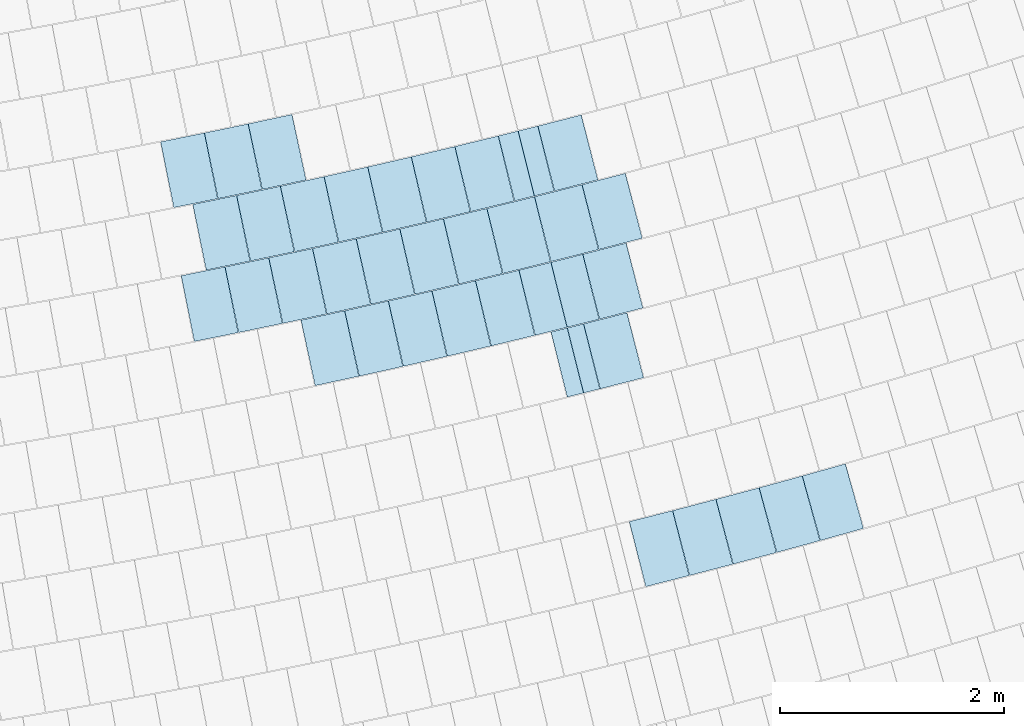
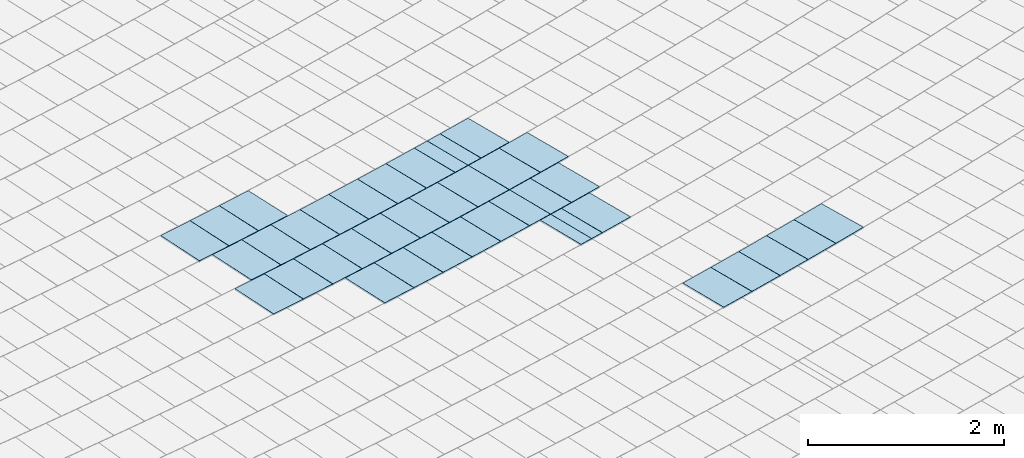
# One storey, part 51 of 438: 39 slabs.
"""IFC2X3 building model written with IfcOpenShell, lengths in millimetres."""

from ifc_helpers import new_model, entity, si_unit, converted_unit, derived_unit, direction, frame, origin, place, context, subcontext, project, spatial, polyline, outline, extrude, material, layer, layer_set, layer_usage, type_object, element, save


model = new_model("IFC2X3")

# Units and contexts
model_context = context("Model", 3, precision=0.01, world=origin(), true_north=direction((6.123031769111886e-17, 1.0)))
body_context = subcontext(model_context, "Body", "Model", "MODEL_VIEW")
ifc_project = project(units=[si_unit("LENGTHUNIT", "METRE", prefix="MILLI"), si_unit("AREAUNIT", "SQUARE_METRE"), si_unit("VOLUMEUNIT", "CUBIC_METRE"), converted_unit("PLANEANGLEUNIT", "DEGREE", entity("IfcRatioMeasure", 0.017453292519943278), si_unit("PLANEANGLEUNIT", "RADIAN"), dimensions=[0, 0, 0, 0, 0, 0, 0]), si_unit("MASSUNIT", "GRAM", prefix="KILO"), derived_unit("MASSDENSITYUNIT", [(si_unit("MASSUNIT", "GRAM", prefix="KILO"), 1), (si_unit("LENGTHUNIT", "METRE"), -3)]), derived_unit("MOMENTOFINERTIAUNIT", [(si_unit("LENGTHUNIT", "METRE"), 4)]), si_unit("TIMEUNIT", "SECOND"), si_unit("FREQUENCYUNIT", "HERTZ"), si_unit("THERMODYNAMICTEMPERATUREUNIT", "DEGREE_CELSIUS"), derived_unit("THERMALTRANSMITTANCEUNIT", [(si_unit("MASSUNIT", "GRAM", prefix="KILO"), 1), (si_unit("THERMODYNAMICTEMPERATUREUNIT", "KELVIN"), -1), (si_unit("TIMEUNIT", "SECOND"), -3)]), derived_unit("THERMALCONDUCTANCEUNIT", [(si_unit("MASSUNIT", "GRAM", prefix="KILO"), 1), (si_unit("LENGTHUNIT", "METRE"), 1), (si_unit("THERMODYNAMICTEMPERATUREUNIT", "KELVIN"), -1), (si_unit("TIMEUNIT", "SECOND"), -3)]), derived_unit("VOLUMETRICFLOWRATEUNIT", [(si_unit("LENGTHUNIT", "METRE"), 3), (si_unit("TIMEUNIT", "SECOND"), -1)]), derived_unit("MASSFLOWRATEUNIT", [(si_unit("MASSUNIT", "GRAM", prefix="KILO"), 1), (si_unit("TIMEUNIT", "SECOND"), -1)]), derived_unit("ROTATIONALFREQUENCYUNIT", [(si_unit("TIMEUNIT", "SECOND"), -1)]), si_unit("ELECTRICCURRENTUNIT", "AMPERE"), si_unit("ELECTRICVOLTAGEUNIT", "VOLT"), si_unit("POWERUNIT", "WATT"), converted_unit("FORCEUNIT", "KIP", entity("IfcRatioMeasure", 2.088543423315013e-05), si_unit("FORCEUNIT", "NEWTON"), dimensions=[1, 1, -2, 0, 0, 0, 0]), si_unit("ILLUMINANCEUNIT", "LUX"), si_unit("LUMINOUSFLUXUNIT", "LUMEN"), si_unit("LUMINOUSINTENSITYUNIT", "CANDELA"), derived_unit("USERDEFINED", [(si_unit("MASSUNIT", "GRAM", prefix="KILO"), -1), (si_unit("LENGTHUNIT", "METRE"), -2), (si_unit("TIMEUNIT", "SECOND"), 3), (si_unit("LUMINOUSFLUXUNIT", "LUMEN"), 1)]), derived_unit("USERDEFINED", [(si_unit("MASSUNIT", "GRAM", prefix="KILO"), 1), (si_unit("LENGTHUNIT", "METRE"), 3), (si_unit("TIMEUNIT", "SECOND"), -3), (si_unit("ELECTRICCURRENTUNIT", "AMPERE"), -2)]), derived_unit("USERDEFINED", [(si_unit("LENGTHUNIT", "METRE"), 2), (si_unit("TIMEUNIT", "SECOND"), -2)]), derived_unit("SOUNDPOWERUNIT", [(si_unit("MASSUNIT", "GRAM", prefix="KILO"), 1), (si_unit("LENGTHUNIT", "METRE"), 2), (si_unit("TIMEUNIT", "SECOND"), -3)]), derived_unit("SOUNDPRESSUREUNIT", [(si_unit("MASSUNIT", "GRAM", prefix="KILO"), 1), (si_unit("LENGTHUNIT", "METRE"), -1), (si_unit("TIMEUNIT", "SECOND"), -2)]), derived_unit("LINEARVELOCITYUNIT", [(si_unit("LENGTHUNIT", "METRE"), 1), (si_unit("TIMEUNIT", "SECOND"), -1)]), si_unit("PRESSUREUNIT", "PASCAL"), derived_unit("USERDEFINED", [(si_unit("LENGTHUNIT", "METRE"), -2), (si_unit("MASSUNIT", "GRAM", prefix="KILO"), 1), (si_unit("TIMEUNIT", "SECOND"), -2)]), derived_unit("LINEARFORCEUNIT", [(si_unit("MASSUNIT", "GRAM", prefix="KILO"), 1), (si_unit("LENGTHUNIT", "METRE"), 1), (si_unit("TIMEUNIT", "SECOND"), -2), (si_unit("LENGTHUNIT", "METRE"), -1)]), derived_unit("PLANARFORCEUNIT", [(si_unit("MASSUNIT", "GRAM", prefix="KILO"), 1), (si_unit("LENGTHUNIT", "METRE"), 1), (si_unit("TIMEUNIT", "SECOND"), -2), (si_unit("LENGTHUNIT", "METRE"), -2)]), derived_unit("SPECIFICHEATCAPACITYUNIT", [(si_unit("LENGTHUNIT", "METRE"), 2), (si_unit("TIMEUNIT", "SECOND"), -2), (si_unit("THERMODYNAMICTEMPERATUREUNIT", "KELVIN"), -1)]), derived_unit("VAPORPERMEABILITYUNIT", [(si_unit("TIMEUNIT", "SECOND"), 1), (si_unit("LENGTHUNIT", "METRE"), -1)]), derived_unit("DYNAMICVISCOSITYUNIT", [(si_unit("MASSUNIT", "GRAM", prefix="KILO"), 1), (si_unit("LENGTHUNIT", "METRE"), -1), (si_unit("TIMEUNIT", "SECOND"), -1)]), derived_unit("THERMALEXPANSIONCOEFFICIENTUNIT", [(si_unit("THERMODYNAMICTEMPERATUREUNIT", "KELVIN"), -1)])], contexts=[model_context])

# Site, building, storey
site_placement = place(None, frame((0.0, 0.0, 0.0), z_axis=(0.0, 0.0, 1.0), x_axis=(0.8191520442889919, 0.5735764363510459, 0.0)))
site = spatial("IfcSite", under=ifc_project, at=site_placement, Name="Default", CompositionType="ELEMENT")
building_placement = place(site_placement, origin())
building = spatial("IfcBuilding", under=site, at=building_placement, CompositionType="ELEMENT")
storey_placement = place(building_placement, origin())
storey = spatial("IfcBuildingStorey", under=building, at=storey_placement, Name="PLAN", CompositionType="ELEMENT", Elevation=0.0)

# Slabs
ifc_material = material(Name="Paint-01")
ifc_layer = layer(ifc_material, 20.00000000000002)
ifc_layer_set = layer_set([ifc_layer], Name="Floor:Slab-179:1000")
ifc_layer_usage = layer_usage(ifc_layer_set, "AXIS3", "POSITIVE", 0.0)
slab_type = type_object("IfcSlabType", Name="Floor:Slab-179:1000", PredefinedType="FLOOR", material=ifc_layer_set)
slab_1_placement = place(storey_placement, origin())
element("IfcSlab", 1, at=slab_1_placement, inside=storey, type_object=slab_type, material=ifc_layer_usage, Name="Floor:Slab-179:1000", ObjectType="Floor:Slab-179:1000", PredefinedType="FLOOR", context=body_context, shape_type="SweptSolid", body=[
    extrude(outline(polyline([(-300.0, -74.84939741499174), (300.0, -74.84939741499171), (300.0, 74.84939741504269), (-300.0, 74.84939741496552), (-300.0, -74.84939741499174)])), frame((-64321.44813636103, -130351.97901273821, 20.0), z_axis=(0.0, 0.0, -1.0), x_axis=(-0.35720070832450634, -0.9340276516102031, 0.0)), (0.0, 0.0, 1.0), 20.00000000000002),
])
slab_2_placement = place(storey_placement, origin())
element("IfcSlab", 2, at=slab_2_placement, inside=storey, type_object=slab_type, material=ifc_layer_usage, Name="Floor:Slab-179:1000", ObjectType="Floor:Slab-179:1000", PredefinedType="FLOOR", context=body_context, shape_type="SweptSolid", body=[
    extrude(outline(polyline([(-299.99999893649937, -200.00000294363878), (300.00000106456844, -200.00000294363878), (299.9999989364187, 200.00000294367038), (-300.00000106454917, 200.0000029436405), (-299.99999893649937, -200.00000294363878)])), frame((-64497.72558317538, -129634.4230226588, 20.0), z_axis=(0.0, 0.0, -1.0), x_axis=(-0.36488734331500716, -0.9310516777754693, 0.0)), (0.0, 0.0, 1.0), 20.000000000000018),
])
slab_3_placement = place(storey_placement, origin())
element("IfcSlab", 3, at=slab_3_placement, inside=storey, type_object=slab_type, material=ifc_layer_usage, Name="Floor:Slab-179:1000", ObjectType="Floor:Slab-179:1000", PredefinedType="FLOOR", context=body_context, shape_type="SweptSolid", body=[
    extrude(outline(polyline([(-299.9999992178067, -147.12305913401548), (300.00000078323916, -147.1230591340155), (299.9999992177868, 147.12305913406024), (-300.00000078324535, 147.12305913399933), (-299.9999992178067, -147.12305913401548)])), frame((-64172.517046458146, -129760.91085285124, 20.0), z_axis=(0.0, 0.0, -1.0), x_axis=(-0.35923409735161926, -0.9332474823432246, 0.0)), (0.0, 0.0, 1.0), 20.00000000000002),
])
slab_4_placement = place(storey_placement, origin())
element("IfcSlab", 4, at=slab_4_placement, inside=storey, type_object=slab_type, material=ifc_layer_usage, Name="Floor:Slab-179:1000", ObjectType="Floor:Slab-179:1000", PredefinedType="FLOOR", context=body_context, shape_type="SweptSolid", body=[
    extrude(outline(polyline([(-299.9999989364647, -200.0000029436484), (300.00000106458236, -200.00000294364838), (299.99999893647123, 200.00000294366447), (-300.0000010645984, 200.00000294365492), (-299.9999989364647, -200.0000029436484)])), frame((-65244.15587090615, -129336.65573075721, 20.0), z_axis=(0.0, 0.0, -1.0), x_axis=(-0.3761533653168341, -0.9265574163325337, 0.0)), (0.0, 0.0, 1.0), 20.00000000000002),
])
slab_5_placement = place(storey_placement, origin())
element("IfcSlab", 5, at=slab_5_placement, inside=storey, type_object=slab_type, material=ifc_layer_usage, Name="Floor:Slab-179:1000", ObjectType="Floor:Slab-179:1000", PredefinedType="FLOOR", context=body_context, shape_type="SweptSolid", body=[
    extrude(outline(polyline([(-299.99999893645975, -200.0000029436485), (300.0000010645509, -200.00000294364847), (299.99999893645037, 200.00000294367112), (-300.0000010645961, 200.00000294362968), (-299.99999893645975, -200.0000029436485)])), frame((-65616.0028930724, -129184.38242259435, 20.0), z_axis=(0.0, 0.0, -1.0), x_axis=(-0.38176572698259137, -0.9242591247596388, 0.0)), (0.0, 0.0, 1.0), 20.00000000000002),
])
slab_6_placement = place(storey_placement, origin())
element("IfcSlab", 6, at=slab_6_placement, inside=storey, type_object=slab_type, material=ifc_layer_usage, Name="Floor:Slab-179:1000", ObjectType="Floor:Slab-179:1000", PredefinedType="FLOOR", context=body_context, shape_type="SweptSolid", body=[
    extrude(outline(polyline([(-299.999998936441, -200.00000294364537), (300.00000106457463, -200.0000029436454), (299.99999893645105, 200.00000294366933), (-300.00000106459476, 200.00000294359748), (-299.999998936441, -200.00000294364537)])), frame((-65986.91958711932, -129029.85677957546, 20.0), z_axis=(0.0, 0.0, -1.0), x_axis=(-0.3873640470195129, -0.9219268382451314, 0.0)), (0.0, 0.0, 1.0), 20.000000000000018),
])
slab_7_placement = place(storey_placement, origin())
element("IfcSlab", 7, at=slab_7_placement, inside=storey, type_object=slab_type, material=ifc_layer_usage, Name="Floor:Slab-179:1000", ObjectType="Floor:Slab-179:1000", PredefinedType="FLOOR", context=body_context, shape_type="SweptSolid", body=[
    extrude(outline(polyline([(-299.99999883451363, -219.17248113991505), (300.0000011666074, -219.172481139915), (299.9999988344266, 219.1724811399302), (-300.0000011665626, 219.17248113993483), (-299.99999883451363, -219.17248113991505)])), frame((-64023.80447526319, -129169.753229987, 20.0), z_axis=(0.0, 0.0, -1.0), x_axis=(-0.36130338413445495, -0.93244831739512, 0.0)), (0.0, 0.0, 1.0), 20.00000000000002),
])
slab_8_placement = place(storey_placement, origin())
element("IfcSlab", 8, at=slab_8_placement, inside=storey, type_object=slab_type, material=ifc_layer_usage, Name="Floor:Slab-179:1000", ObjectType="Floor:Slab-179:1000", PredefinedType="FLOOR", context=body_context, shape_type="SweptSolid", body=[
    extrude(outline(polyline([(-299.99999893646, -200.00000294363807), (300.00000106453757, -200.0000029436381), (299.9999989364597, 200.0000029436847), (-300.0000010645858, 200.00000294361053), (-299.99999893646, -200.00000294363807)])), frame((-64415.92554089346, -129016.49599175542, 20.0), z_axis=(0.0, 0.0, -1.0), x_axis=(-0.36700397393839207, -0.930219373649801, 0.0)), (0.0, 0.0, 1.0), 20.00000000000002),
])
slab_9_placement = place(storey_placement, origin())
element("IfcSlab", 9, at=slab_9_placement, inside=storey, type_object=slab_type, material=ifc_layer_usage, Name="Floor:Slab-179:1000", ObjectType="Floor:Slab-179:1000", PredefinedType="FLOOR", context=body_context, shape_type="SweptSolid", body=[
    extrude(outline(polyline([(-299.99999893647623, -200.00000294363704), (300.0000010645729, -200.000002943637), (299.9999989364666, 200.00000294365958), (-300.00000106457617, 200.00000294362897), (-299.99999893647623, -200.00000294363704)])), frame((-64789.26658896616, -128867.87789369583, 20.0), z_axis=(0.0, 0.0, -1.0), x_axis=(-0.3726908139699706, -0.9279555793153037, 0.0)), (0.0, 0.0, 1.0), 20.00000000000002),
])
slab_10_placement = place(storey_placement, origin())
element("IfcSlab", 10, at=slab_10_placement, inside=storey, type_object=slab_type, material=ifc_layer_usage, Name="Floor:Slab-179:1000", ObjectType="Floor:Slab-179:1000", PredefinedType="FLOOR", context=body_context, shape_type="SweptSolid", body=[
    extrude(outline(polyline([(-299.9999989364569, -200.0000029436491), (300.00000106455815, -200.0000029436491), (299.99999893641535, 200.00000294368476), (-300.0000010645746, 200.000002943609), (-299.9999989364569, -200.0000029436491)])), frame((-65161.690977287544, -128716.97742242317, 20.0), z_axis=(0.0, 0.0, -1.0), x_axis=(-0.37836369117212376, -0.9256570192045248, 0.0)), (0.0, 0.0, 1.0), 20.000000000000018),
])
slab_11_placement = place(storey_placement, origin())
element("IfcSlab", 11, at=slab_11_placement, inside=storey, type_object=slab_type, material=ifc_layer_usage, Name="Floor:Slab-179:1000", ObjectType="Floor:Slab-179:1000", PredefinedType="FLOOR", context=body_context, shape_type="SweptSolid", body=[
    extrude(outline(polyline([(-299.9999989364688, -200.0000029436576), (300.000001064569, -200.00000294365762), (299.9999989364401, 200.00000294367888), (-300.0000010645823, 200.00000294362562), (-299.9999989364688, -200.0000029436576)])), frame((-65533.18475300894, -128563.80023141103, 20.0), z_axis=(0.0, 0.0, -1.0), x_axis=(-0.38402239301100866, -0.9233237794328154, 0.0)), (0.0, 0.0, 1.0), 20.00000000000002),
])
slab_12_placement = place(storey_placement, origin())
element("IfcSlab", 12, at=slab_12_placement, inside=storey, type_object=slab_type, material=ifc_layer_usage, Name="Floor:Slab-179:1000", ObjectType="Floor:Slab-179:1000", PredefinedType="FLOOR", context=body_context, shape_type="SweptSolid", body=[
    extrude(outline(polyline([(-299.99999893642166, -200.0000029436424), (300.00000106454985, -200.0000029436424), (299.99999893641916, 200.0000029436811), (-300.00000106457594, 200.00000294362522), (-299.99999893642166, -200.0000029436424)])), frame((-65903.73399814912, -128408.35205942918, 20.0), z_axis=(0.0, 0.0, -1.0), x_axis=(-0.38966670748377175, -0.9209559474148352, 0.0)), (0.0, 0.0, 1.0), 20.00000000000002),
])
slab_13_placement = place(storey_placement, origin())
element("IfcSlab", 13, at=slab_13_placement, inside=storey, type_object=slab_type, material=ifc_layer_usage, Name="Floor:Slab-179:1000", ObjectType="Floor:Slab-179:1000", PredefinedType="FLOOR", context=body_context, shape_type="SweptSolid", body=[
    extrude(outline(polyline([(-299.9999989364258, -200.0000029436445), (300.0000010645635, -200.0000029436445), (299.99999893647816, 200.00000294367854), (-300.000001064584, 200.00000294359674), (-299.9999989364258, -200.0000029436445)])), frame((-66273.32483011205, -128250.63873033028, 20.0), z_axis=(0.0, 0.0, -1.0), x_axis=(-0.39529642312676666, -0.9185536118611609, 0.0)), (0.0, 0.0, 1.0), 20.00000000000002),
])
slab_14_placement = place(storey_placement, origin())
element("IfcSlab", 14, at=slab_14_placement, inside=storey, type_object=slab_type, material=ifc_layer_usage, Name="Floor:Slab-179:1000", ObjectType="Floor:Slab-179:1000", PredefinedType="FLOOR", context=body_context, shape_type="SweptSolid", body=[
    extrude(outline(polyline([(-299.99999893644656, -200.00000294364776), (300.00000106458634, -200.0000029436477), (299.99999893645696, 200.0000029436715), (-300.0000010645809, 200.00000294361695), (-299.99999893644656, -200.00000294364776)])), frame((-66641.94340220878, -128090.66615283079, 20.0), z_axis=(0.0, 0.0, -1.0), x_axis=(-0.40091132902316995, -0.9161168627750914, 0.0)), (0.0, 0.0, 1.0), 20.00000000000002),
])
slab_15_placement = place(storey_placement, origin())
element("IfcSlab", 15, at=slab_15_placement, inside=storey, type_object=slab_type, material=ifc_layer_usage, Name="Floor:Slab-179:1000", ObjectType="Floor:Slab-179:1000", PredefinedType="FLOOR", context=body_context, shape_type="SweptSolid", body=[
    extrude(outline(polyline([(-299.9999989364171, -200.00000294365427), (300.00000106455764, -200.00000294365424), (299.9999989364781, 200.00000294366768), (-300.00000106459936, 200.0000029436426), (-299.9999989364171, -200.00000294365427)])), frame((-63960.08655204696, -128545.43491018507, 20.0), z_axis=(0.0, 0.0, -1.0), x_axis=(-0.3634095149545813, -0.9316294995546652, 0.0)), (0.0, 0.0, 1.0), 20.000000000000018),
])
slab_16_placement = place(storey_placement, origin())
element("IfcSlab", 16, at=slab_16_placement, inside=storey, type_object=slab_type, material=ifc_layer_usage, Name="Floor:Slab-179:1000", ObjectType="Floor:Slab-179:1000", PredefinedType="FLOOR", context=body_context, shape_type="SweptSolid", body=[
    extrude(outline(polyline([(-299.99999893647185, -200.0000029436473), (300.0000010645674, -200.0000029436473), (299.99999893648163, 200.0000029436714), (-300.0000010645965, 200.0000029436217), (-299.99999893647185, -200.0000029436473)])), frame((-64707.01771196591, -128248.74275533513, 20.0), z_axis=(0.0, 0.0, -1.0), x_axis=(-0.37489281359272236, -0.9270681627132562, 0.0)), (0.0, 0.0, 1.0), 20.000000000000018),
])
slab_17_placement = place(storey_placement, origin())
element("IfcSlab", 17, at=slab_17_placement, inside=storey, type_object=slab_type, material=ifc_layer_usage, Name="Floor:Slab-179:1000", ObjectType="Floor:Slab-179:1000", PredefinedType="FLOOR", context=body_context, shape_type="SweptSolid", body=[
    extrude(outline(polyline([(-299.9999989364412, -200.00000294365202), (300.00000106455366, -200.00000294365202), (299.99999893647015, 200.0000029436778), (-300.0000010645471, 200.00000294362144), (-299.9999989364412, -200.00000294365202)])), frame((-64334.01037922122, -128398.242483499, 20.0), z_axis=(0.0, 0.0, -1.0), x_axis=(-0.36915820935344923, -0.9293665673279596, 0.0)), (0.0, 0.0, 1.0), 20.00000000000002),
])
slab_18_placement = place(storey_placement, origin())
element("IfcSlab", 18, at=slab_18_placement, inside=storey, type_object=slab_type, material=ifc_layer_usage, Name="Floor:Slab-179:1000", ObjectType="Floor:Slab-179:1000", PredefinedType="FLOOR", context=body_context, shape_type="SweptSolid", body=[
    extrude(outline(polyline([(-299.9999989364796, -200.0000029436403), (300.0000010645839, -200.00000294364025), (299.9999989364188, 200.00000294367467), (-300.00000106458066, 200.0000029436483), (-299.9999989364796, -200.0000029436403)])), frame((-65079.094313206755, -128096.94143185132, 20.0), z_axis=(0.0, 0.0, -1.0), x_axis=(-0.38061310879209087, -0.9247343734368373, 0.0)), (0.0, 0.0, 1.0), 20.00000000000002),
])
slab_19_placement = place(storey_placement, origin())
element("IfcSlab", 19, at=slab_19_placement, inside=storey, type_object=slab_type, material=ifc_layer_usage, Name="Floor:Slab-179:1000", ObjectType="Floor:Slab-179:1000", PredefinedType="FLOOR", context=body_context, shape_type="SweptSolid", body=[
    extrude(outline(polyline([(-299.9999989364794, -200.0000029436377), (300.00000106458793, -200.00000294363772), (299.99999893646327, 200.00000294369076), (-300.00000106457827, 200.0000029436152), (-299.9999989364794, -200.0000029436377)])), frame((-64871.39219743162, -129486.67110333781, 20.0), z_axis=(0.0, 0.0, -1.0), x_axis=(-0.37052716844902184, -0.9288216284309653, 0.0)), (0.0, 0.0, 1.0), 20.00000000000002),
])
slab_20_placement = place(storey_placement, origin())
element("IfcSlab", 20, at=slab_20_placement, inside=storey, type_object=slab_type, material=ifc_layer_usage, Name="Floor:Slab-179:1000", ObjectType="Floor:Slab-179:1000", PredefinedType="FLOOR", context=body_context, shape_type="SweptSolid", body=[
    extrude(outline(polyline([(-299.99999893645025, -200.00000294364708), (300.00000106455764, -200.00000294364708), (299.99999893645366, 200.00000294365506), (-300.0000010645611, 200.00000294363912), (-299.99999893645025, -200.00000294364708)])), frame((-66189.59789328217, -127627.7862674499, 20.0), z_axis=(0.0, 0.0, -1.0), x_axis=(-0.39768595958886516, -0.9175215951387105, 0.0)), (0.0, 0.0, 1.0), 20.000000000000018),
])
slab_21_placement = place(storey_placement, origin())
element("IfcSlab", 21, at=slab_21_placement, inside=storey, type_object=slab_type, material=ifc_layer_usage, Name="Floor:Slab-179:1000", ObjectType="Floor:Slab-179:1000", PredefinedType="FLOOR", context=body_context, shape_type="SweptSolid", body=[
    extrude(outline(polyline([(-300.0, -91.1401530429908), (300.0, -91.1401530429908), (300.0, 91.14015304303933), (-300.0, 91.14015304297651), (-300.0, -91.1401530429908)])), frame((-63686.92002131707, -128651.38102348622, 20.0), z_axis=(0.0, 0.0, -1.0), x_axis=(-0.3576469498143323, -0.9338568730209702, 0.0)), (0.0, 0.0, 1.0), 20.00000000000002),
])
slab_22_placement = place(storey_placement, origin())
element("IfcSlab", 22, at=slab_22_placement, inside=storey, type_object=slab_type, material=ifc_layer_usage, Name="Floor:Slab-179:1000", ObjectType="Floor:Slab-179:1000", PredefinedType="FLOOR", context=body_context, shape_type="SweptSolid", body=[
    extrude(outline(polyline([(-299.9999989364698, -200.00000294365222), (300.00000106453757, -200.00000294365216), (299.99999893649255, 200.00000294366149), (-300.00000106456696, 200.00000294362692), (-299.9999989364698, -200.00000294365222)])), frame((-65450.22598139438, -127942.84430705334, 20.0), z_axis=(0.0, 0.0, -1.0), x_axis=(-0.38631887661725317, -0.9223652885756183, 0.0)), (0.0, 0.0, 1.0), 20.00000000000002),
])
slab_23_placement = place(storey_placement, origin())
element("IfcSlab", 23, at=slab_23_placement, inside=storey, type_object=slab_type, material=ifc_layer_usage, Name="Floor:Slab-179:1000", ObjectType="Floor:Slab-179:1000", PredefinedType="FLOOR", context=body_context, shape_type="SweptSolid", body=[
    extrude(outline(polyline([(-299.999998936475, -200.00000294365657), (300.00000106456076, -200.00000294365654), (299.9999989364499, 200.00000294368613), (-300.0000010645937, 200.0000029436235), (-299.999998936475, -200.00000294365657)])), frame((-65820.39855104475, -127786.4572625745, 20.0), z_axis=(0.0, 0.0, -1.0), x_axis=(-0.392009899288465, -0.9199609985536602, 0.0)), (0.0, 0.0, 1.0), 20.00000000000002),
])
slab_24_placement = place(storey_placement, origin())
element("IfcSlab", 24, at=slab_24_placement, inside=storey, type_object=slab_type, material=ifc_layer_usage, Name="Floor:Slab-179:1000", ObjectType="Floor:Slab-179:1000", PredefinedType="FLOOR", context=body_context, shape_type="SweptSolid", body=[
    extrude(outline(polyline([(-299.99999893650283, -200.00000294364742), (300.00000106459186, -200.00000294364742), (299.99999893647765, 200.00000294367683), (-300.00000106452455, 200.00000294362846), (-299.99999893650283, -200.00000294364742)])), frame((-65367.11189461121, -127321.50522535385, 20.0), z_axis=(0.0, 0.0, -1.0), x_axis=(-0.3886281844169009, -0.9213946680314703, 0.0)), (0.0, 0.0, 1.0), 20.00000000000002),
])
slab_25_placement = place(storey_placement, origin())
element("IfcSlab", 25, at=slab_25_placement, inside=storey, type_object=slab_type, material=ifc_layer_usage, Name="Floor:Slab-179:1000", ObjectType="Floor:Slab-179:1000", PredefinedType="FLOOR", context=body_context, shape_type="SweptSolid", body=[
    extrude(outline(polyline([(-299.9999989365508, -200.0000029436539), (300.00000106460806, -200.00000294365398), (299.9999989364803, 200.00000294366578), (-300.00000106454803, 200.0000029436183), (-299.9999989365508, -200.0000029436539)])), frame((-66105.69619607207, -127004.5169114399, 20.0), z_axis=(0.0, 0.0, -1.0), x_axis=(-0.4000899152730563, -0.9164758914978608, 0.0)), (0.0, 0.0, 1.0), 20.00000000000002),
])
slab_26_placement = place(storey_placement, origin())
element("IfcSlab", 26, at=slab_26_placement, inside=storey, type_object=slab_type, material=ifc_layer_usage, Name="Floor:Slab-179:1000", ObjectType="Floor:Slab-179:1000", PredefinedType="FLOOR", context=body_context, shape_type="SweptSolid", body=[
    extrude(outline(polyline([(-299.999998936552, -200.00000294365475), (300.00000106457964, -200.00000294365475), (299.99999893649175, 200.00000294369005), (-300.00000106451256, 200.0000029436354), (-299.999998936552, -200.00000294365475)])), frame((-65736.89825852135, -127164.16258749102, 20.0), z_axis=(0.0, 0.0, -1.0), x_axis=(-0.39436671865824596, -0.9189531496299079, 0.0)), (0.0, 0.0, 1.0), 20.00000000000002),
])
slab_27_placement = place(storey_placement, origin())
element("IfcSlab", 27, at=slab_27_placement, inside=storey, type_object=slab_type, material=ifc_layer_usage, Name="Floor:Slab-179:1000", ObjectType="Floor:Slab-179:1000", PredefinedType="FLOOR", context=body_context, shape_type="SweptSolid", body=[
    extrude(outline(polyline([(-300.00000106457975, -200.00000294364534), (299.9999989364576, -200.00000294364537), (300.0000010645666, 200.00000294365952), (-299.99999893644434, 200.00000294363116), (-300.00000106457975, -200.00000294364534)])), frame((-63242.56386582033, -128820.45368657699, 20.0), z_axis=(0.0, 0.0, -1.0), x_axis=(-0.352378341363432, -0.9358576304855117, 0.0)), (0.0, 0.0, 1.0), 20.00000000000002),
])
slab_28_placement = place(storey_placement, origin())
element("IfcSlab", 28, at=slab_28_placement, inside=storey, type_object=slab_type, material=ifc_layer_usage, Name="Floor:Slab-179:1000", ObjectType="Floor:Slab-179:1000", PredefinedType="FLOOR", context=body_context, shape_type="SweptSolid", body=[
    extrude(outline(polyline([(-300.0, -91.14015304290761), (300.0, -91.14015304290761), (300.0, 91.14015304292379), (-300.0, 91.14015304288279), (-300.0, -91.14015304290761)])), frame((-63516.56206999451, -128716.6774053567, 20.0), z_axis=(0.0, 0.0, -1.0), x_axis=(-0.35815336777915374, -0.9336627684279, 0.0)), (0.0, 0.0, 1.0), 20.00000000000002),
])
slab_29_placement = place(storey_placement, origin())
element("IfcSlab", 29, at=slab_29_placement, inside=storey, type_object=slab_type, material=ifc_layer_usage, Name="Floor:Slab-179:1000", ObjectType="Floor:Slab-179:1000", PredefinedType="FLOOR", context=body_context, shape_type="SweptSolid", body=[
    extrude(outline(polyline([(-300.000001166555, -219.17248113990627), (299.999998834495, -219.17248113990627), (300.0000011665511, 219.17248113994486), (-299.99999883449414, 219.17248113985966), (-300.000001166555, -219.17248113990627)])), frame((-63612.454913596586, -129327.41912026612, 20.0), z_axis=(0.0, 0.0, -1.0), x_axis=(-0.35449219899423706, -0.9350589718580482, 0.0)), (0.0, 0.0, 1.0), 20.00000000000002),
])
slab_30_placement = place(storey_placement, origin())
element("IfcSlab", 30, at=slab_30_placement, inside=storey, type_object=slab_type, material=ifc_layer_usage, Name="Floor:Slab-179:1000", ObjectType="Floor:Slab-179:1000", PredefinedType="FLOOR", context=body_context, shape_type="SweptSolid", body=[
    extrude(outline(polyline([(-300.00000106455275, -200.00000294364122), (299.9999989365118, -200.00000294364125), (300.00000106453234, 200.00000294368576), (-299.9999989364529, 200.0000029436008), (-300.00000106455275, -200.00000294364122)])), frame((-63218.35447409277, -129475.51218142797, 20.0), z_axis=(0.0, 0.0, -1.0), x_axis=(-0.34876222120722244, -0.9372112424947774, 0.0)), (0.0, 0.0, 1.0), 20.00000000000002),
])
slab_31_placement = place(storey_placement, origin())
element("IfcSlab", 31, at=slab_31_placement, inside=storey, type_object=slab_type, material=ifc_layer_usage, Name="Floor:Slab-179:1000", ObjectType="Floor:Slab-179:1000", PredefinedType="FLOOR", context=body_context, shape_type="SweptSolid", body=[
    extrude(outline(polyline([(-300.0000007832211, -147.12305913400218), (299.9999992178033, -147.12305913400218), (300.000000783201, 147.12305913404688), (-299.9999992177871, 147.12305913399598), (-300.0000007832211, -147.12305913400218)])), frame((-63896.961539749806, -129866.52833329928, 20.0), z_axis=(0.0, 0.0, -1.0), x_axis=(-0.3565655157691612, -0.9342703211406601, 0.0)), (0.0, 0.0, 1.0), 20.000000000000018),
])
slab_32_placement = place(storey_placement, origin())
element("IfcSlab", 32, at=slab_32_placement, inside=storey, type_object=slab_type, material=ifc_layer_usage, Name="Floor:Slab-179:1000", ObjectType="Floor:Slab-179:1000", PredefinedType="FLOOR", context=body_context, shape_type="SweptSolid", body=[
    extrude(outline(polyline([(-300.0000010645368, -200.00000294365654), (299.9999989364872, -200.0000029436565), (300.00000106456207, 200.0000029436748), (-299.9999989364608, 200.00000294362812), (-300.0000010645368, -200.00000294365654)])), frame((-63570.52392604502, -129989.80950744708, 20.0), z_axis=(0.0, 0.0, -1.0), x_axis=(-0.3508929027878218, -0.9364155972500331, 0.0)), (0.0, 0.0, 1.0), 20.00000000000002),
])
slab_33_placement = place(storey_placement, origin())
element("IfcSlab", 33, at=slab_33_placement, inside=storey, type_object=slab_type, material=ifc_layer_usage, Name="Floor:Slab-179:1000", ObjectType="Floor:Slab-179:1000", PredefinedType="FLOOR", context=body_context, shape_type="SweptSolid", body=[
    extrude(outline(polyline([(-300.00000106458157, -200.00000294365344), (299.99999893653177, -200.00000294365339), (300.00000106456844, 200.00000294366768), (-299.99999893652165, 200.0000029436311), (-300.00000106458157, -200.00000294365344)])), frame((-63922.563705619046, -130503.79607803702, 20.0), z_axis=(0.0, 0.0, -1.0), x_axis=(-0.3529830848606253, -0.9356297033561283, 0.0)), (0.0, 0.0, 1.0), 20.00000000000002),
])
slab_34_placement = place(storey_placement, origin())
element("IfcSlab", 34, at=slab_34_placement, inside=storey, type_object=slab_type, material=ifc_layer_usage, Name="Floor:Slab-179:1000", ObjectType="Floor:Slab-179:1000", PredefinedType="FLOOR", context=body_context, shape_type="SweptSolid", body=[
    extrude(outline(polyline([(-300.0, -74.84939741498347), (300.0, -74.84939741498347), (300.0, 74.84939741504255), (-300.0, 74.84939741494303), (-300.0, -74.84939741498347)])), frame((-64181.24583265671, -130405.71705719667, 20.0), z_axis=(0.0, 0.0, -1.0), x_axis=(-0.35859943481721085, -0.9334915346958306, 0.0)), (0.0, 0.0, 1.0), 20.000000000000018),
])
slab_35_placement = place(storey_placement, origin())
element("IfcSlab", 35, at=slab_35_placement, inside=storey, type_object=slab_type, material=ifc_layer_usage, Name="Floor:Slab-179:1000", ObjectType="Floor:Slab-179:1000", PredefinedType="FLOOR", context=body_context, shape_type="SweptSolid", body=[
    extrude(outline(polyline([(-300.0000010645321, -200.0000029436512), (299.9999989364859, -200.0000029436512), (300.00000106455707, 200.00000294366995), (-299.9999989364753, 200.00000294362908), (-300.0000010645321, -200.0000029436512)])), frame((-63092.81032396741, -132737.64769710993, 20.0), z_axis=(0.0, 0.0, -1.0), x_axis=(-0.3315718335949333, -0.9434299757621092, 0.0)), (0.0, 0.0, 1.0), 20.00000000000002),
])
slab_36_placement = place(storey_placement, origin())
element("IfcSlab", 36, at=slab_36_placement, inside=storey, type_object=slab_type, material=ifc_layer_usage, Name="Floor:Slab-179:1000", ObjectType="Floor:Slab-179:1000", PredefinedType="FLOOR", context=body_context, shape_type="SweptSolid", body=[
    extrude(outline(polyline([(-300.0000010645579, -200.00000294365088), (299.99999893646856, -200.00000294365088), (300.0000010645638, 200.0000029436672), (-299.9999989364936, 200.00000294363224), (-300.0000010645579, -200.00000294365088)])), frame((-63471.44517851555, -132603.32951978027, 20.0), z_axis=(0.0, 0.0, -1.0), x_axis=(-0.3370852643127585, -0.9414741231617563, 0.0)), (0.0, 0.0, 1.0), 20.00000000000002),
])
slab_37_placement = place(storey_placement, origin())
element("IfcSlab", 37, at=slab_37_placement, inside=storey, type_object=slab_type, material=ifc_layer_usage, Name="Floor:Slab-179:1000", ObjectType="Floor:Slab-179:1000", PredefinedType="FLOOR", context=body_context, shape_type="SweptSolid", body=[
    extrude(outline(polyline([(-300.0000010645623, -200.00000294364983), (299.99999893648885, -200.0000029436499), (300.00000106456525, 200.000002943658), (-299.9999989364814, 200.00000294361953), (-300.0000010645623, -200.00000294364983)])), frame((-63849.287787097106, -132466.79861126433, 20.0), z_axis=(0.0, 0.0, -1.0), x_axis=(-0.3425871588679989, -0.9394860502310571, 0.0)), (0.0, 0.0, 1.0), 20.00000000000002),
])
slab_38_placement = place(storey_placement, origin())
element("IfcSlab", 38, at=slab_38_placement, inside=storey, type_object=slab_type, material=ifc_layer_usage, Name="Floor:Slab-179:1000", ObjectType="Floor:Slab-179:1000", PredefinedType="FLOOR", context=body_context, shape_type="SweptSolid", body=[
    extrude(outline(polyline([(-300.00000106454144, -200.00000294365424), (299.9999989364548, -200.00000294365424), (300.000001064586, 200.00000294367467), (-299.9999989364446, 200.00000294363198), (-300.00000106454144, -200.00000294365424)])), frame((-64226.32521870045, -132328.059644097, 20.0), z_axis=(0.0, 0.0, -1.0), x_axis=(-0.348077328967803, -0.9374658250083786, 0.0)), (0.0, 0.0, 1.0), 20.000000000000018),
])
slab_39_placement = place(storey_placement, origin())
element("IfcSlab", 39, at=slab_39_placement, inside=storey, type_object=slab_type, material=ifc_layer_usage, Name="Floor:Slab-179:1000", ObjectType="Floor:Slab-179:1000", PredefinedType="FLOOR", context=body_context, shape_type="SweptSolid", body=[
    extrude(outline(polyline([(-300.0000010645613, -200.00000294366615), (299.99999893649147, -200.00000294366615), (300.00000106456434, 200.00000294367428), (-299.9999989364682, 200.0000029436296), (-300.0000010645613, -200.00000294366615)])), frame((-64602.54456986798, -132187.11736638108, 20.0), z_axis=(0.0, 0.0, -1.0), x_axis=(-0.35355558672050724, -0.9354135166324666, 0.0)), (0.0, 0.0, 1.0), 20.00000000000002),
])

save(model, "model.ifc")
